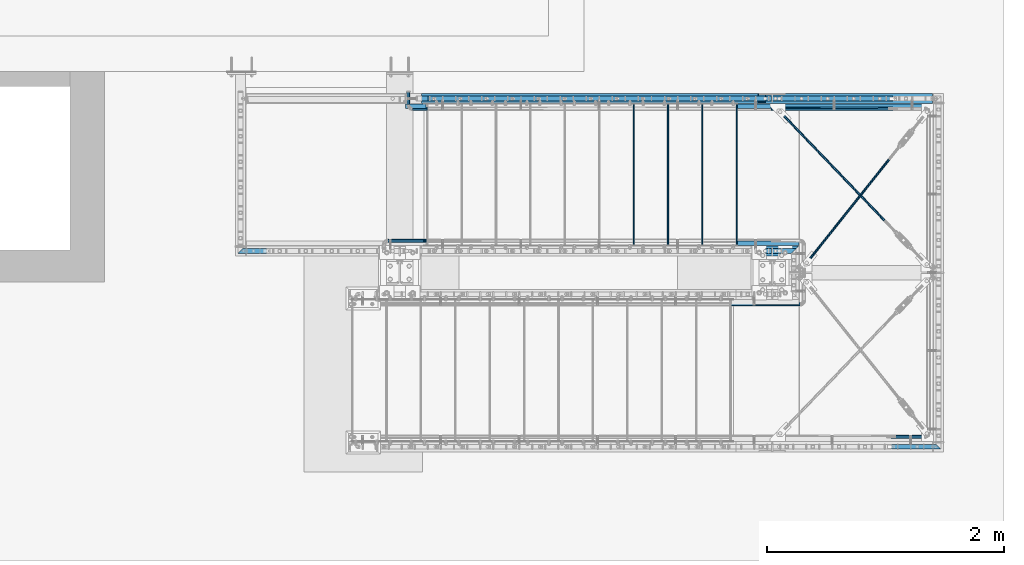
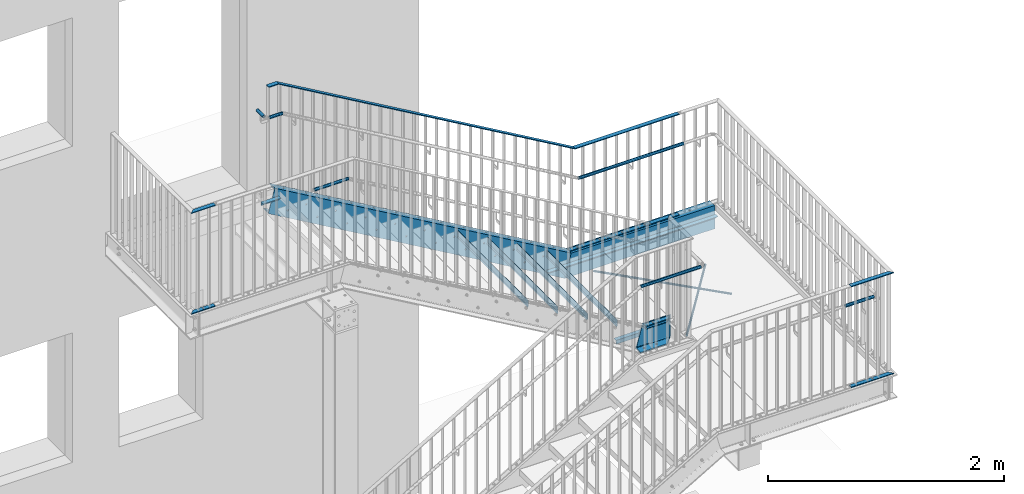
# One storey, part 17 of 145: 26 beams, 2 members, 50 openings.
"""IFC2X3 building model written with IfcOpenShell, lengths in millimetres."""

from ifc_helpers import new_model, entity, si_unit, converted_unit, frame, frame_2d, origin, origin_with_axes, origin_2d, origin_2d_with_axis, place, context, project, spatial, polyline, rectangle, circle, hollow_circle, l_section, u_section, outline, extrude, clip, halfspace, material, element, save


model = new_model("IFC2X3")

# Units and contexts
model_context = context("Model", 3, precision=1e-09, world=origin_with_axes())
ifc_project = project(units=[si_unit("LENGTHUNIT", "METRE", prefix="MILLI"), si_unit("AREAUNIT", "SQUARE_METRE"), si_unit("VOLUMEUNIT", "CUBIC_METRE"), converted_unit("PLANEANGLEUNIT", "DEGREE", entity("IfcPlaneAngleMeasure", 0.01745329), si_unit("PLANEANGLEUNIT", "RADIAN"), dimensions=[0, 0, 0, 0, 0, 0, 0])], contexts=[model_context])

# Site, building, storey
site_placement = place(None, origin_with_axes())
site = spatial("IfcSite", under=ifc_project, at=site_placement, Name="BZ1 Grund- und Mittelschule 85716 Unterschlei?heim", CompositionType="ELEMENT")
building_placement = place(site_placement, origin_with_axes())
building = spatial("IfcBuilding", under=site, at=building_placement, Name="Struktur 1", CompositionType="ELEMENT")
storey_placement = place(building_placement, origin_with_axes())
storey = spatial("IfcBuildingStorey", under=building, at=storey_placement, Name="Default Storey", CompositionType="ELEMENT", Elevation=0.0)

# Beam, openings
ifc_material_1 = material(Name="S235JR")
beam_1_placement = place(None, frame((19945.155406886, -247.702, 1493.6363644), z_axis=(1.0, 0.0, 0.0), x_axis=(0.0, 1.0, 0.0)))
beam_1 = element("IfcBeam", 1, at=beam_1_placement, inside=storey, material=ifc_material_1, Name="-", ObjectType="-", context=model_context, shape_type="Clipping", body=[
    clip(extrude(u_section(Depth=240.0, FlangeWidth=85.0, WebThickness=9.5, FlangeThickness=13.0, FilletRadius=13.0, EdgeRadius=6.5, FlangeSlope=4.574, at=frame_2d((20.2, 0.0))), origin(), (0.0, 0.0, 1.0), 1615.689320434), halfspace(frame((247.702, -6450.293706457, -1561.063264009), z_axis=(0.0, -0.260320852, 0.965522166), x_axis=(1.0, 0.0, 0.0)), True)),
])
opening_1_placement = place(beam_1_placement, frame((20.2, 106.5, 1392.986083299), z_axis=(0.0, 1.0, 0.0), x_axis=(0.0, 0.0, -1.0)))
element("IfcOpeningElement", 2, at=opening_1_placement, cuts=beam_1, ObjectType="Opening", context=model_context, shape_type="SweptSolid", body=[
    extrude(circle(Radius=7.001, at=origin_2d_with_axis()), origin(), (0.0, 0.0, 1.0), 14.0),
])
opening_2_placement = place(beam_1_placement, frame((20.2, 106.5, 512.986083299), z_axis=(0.0, 1.0, 0.0), x_axis=(0.0, 0.0, -1.0)))
element("IfcOpeningElement", 3, at=opening_2_placement, cuts=beam_1, ObjectType="Opening", context=model_context, shape_type="SweptSolid", body=[
    extrude(circle(Radius=7.001, at=origin_2d_with_axis()), origin(), (0.0, 0.0, 1.0), 14.0),
])
opening_3_placement = place(beam_1_placement, frame((20.2, 106.5, 952.986083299), z_axis=(0.0, 1.0, 0.0), x_axis=(0.0, 0.0, -1.0)))
element("IfcOpeningElement", 4, at=opening_3_placement, cuts=beam_1, ObjectType="Opening", context=model_context, shape_type="SweptSolid", body=[
    extrude(circle(Radius=7.001, at=origin_2d_with_axis()), origin(), (0.0, 0.0, 1.0), 14.0),
])
opening_4_placement = place(beam_1_placement, frame((20.2, 106.5, 292.986083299), z_axis=(0.0, 1.0, 0.0), x_axis=(0.0, 0.0, -1.0)))
element("IfcOpeningElement", 5, at=opening_4_placement, cuts=beam_1, ObjectType="Opening", context=model_context, shape_type="SweptSolid", body=[
    extrude(circle(Radius=7.001, at=origin_2d_with_axis()), origin(), (0.0, 0.0, 1.0), 14.0),
])
opening_5_placement = place(beam_1_placement, frame((20.2, 106.5, 1172.986083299), z_axis=(0.0, 1.0, 0.0), x_axis=(0.0, 0.0, -1.0)))
element("IfcOpeningElement", 6, at=opening_5_placement, cuts=beam_1, ObjectType="Opening", context=model_context, shape_type="SweptSolid", body=[
    extrude(circle(Radius=7.001, at=origin_2d_with_axis()), origin(), (0.0, 0.0, 1.0), 14.0),
])
opening_6_placement = place(beam_1_placement, frame((20.2, 106.5, 732.986083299), z_axis=(0.0, 1.0, 0.0), x_axis=(0.0, 0.0, -1.0)))
element("IfcOpeningElement", 7, at=opening_6_placement, cuts=beam_1, ObjectType="Opening", context=model_context, shape_type="SweptSolid", body=[
    extrude(circle(Radius=7.001, at=origin_2d_with_axis()), origin(), (0.0, 0.0, 1.0), 14.0),
])
opening_7_placement = place(beam_1_placement, frame((20.2, -120.5, 265.689320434), z_axis=(0.0, 1.0, 0.0), x_axis=(0.0, 0.0, 1.0)))
element("IfcOpeningElement", 8, at=opening_7_placement, cuts=beam_1, ObjectType="Opening", context=model_context, shape_type="SweptSolid", body=[
    extrude(circle(Radius=9.001, at=frame_2d((60.0, 0.0), x_axis=(1.0, 0.0))), origin(), (0.0, 0.0, 1.0), 14.0),
])
opening_8_placement = place(beam_1_placement, frame((20.2, -120.5, 265.689320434), z_axis=(0.0, 1.0, 0.0), x_axis=(0.0, 0.0, 1.0)))
element("IfcOpeningElement", 9, at=opening_8_placement, cuts=beam_1, ObjectType="Opening", context=model_context, shape_type="SweptSolid", body=[
    extrude(circle(Radius=9.001, at=frame_2d((-60.0, 0.0), x_axis=(1.0, 0.0))), origin(), (0.0, 0.0, 1.0), 14.0),
])

beam_2_placement = place(None, frame((19945.155406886, -1492.302, 1493.6363644), z_axis=(1.0, 0.0, 0.0), x_axis=(0.0, -1.0, 0.0)))
beam_2 = element("IfcBeam", 10, at=beam_2_placement, inside=storey, material=ifc_material_1, Name="-", ObjectType="-", context=model_context, shape_type="Clipping", body=[
    clip(clip(extrude(u_section(Depth=240.0, FlangeWidth=85.0, WebThickness=9.5, FlangeThickness=13.0, FilletRadius=13.0, EdgeRadius=6.5, FlangeSlope=4.574, at=frame_2d((20.2, 0.0))), origin(), (0.0, 0.0, 1.0), 733.79796419), halfspace(frame((-1492.302, 6450.293706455, -1561.063264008), z_axis=(0.0, 0.260320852, 0.965522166), x_axis=(-1.0, 0.0, 0.0)), True)), halfspace(frame((9460.620656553, 1493.6363644, -8992.232750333), z_axis=(-0.707106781, 0.0, -0.707106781), x_axis=(0.707106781, 0.0, -0.707106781)), True)),
])
opening_9_placement = place(beam_2_placement, frame((20.2, -106.5, 299.987083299), z_axis=(0.0, 1.0, 0.0), x_axis=(-1.0, 0.0, 0.0)))
element("IfcOpeningElement", 11, at=opening_9_placement, cuts=beam_2, ObjectType="Opening", context=model_context, shape_type="SweptSolid", body=[
    extrude(circle(Radius=7.001, at=frame_2d((0.0, -7.001), x_axis=(1.0, 0.0))), origin(), (0.0, 0.0, -1.0), 14.0),
])
opening_10_placement = place(beam_2_placement, frame((20.2, 120.5, 265.689320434), z_axis=(0.0, -1.0, 0.0), x_axis=(0.0, 0.0, 1.0)))
element("IfcOpeningElement", 12, at=opening_10_placement, cuts=beam_2, ObjectType="Opening", context=model_context, shape_type="SweptSolid", body=[
    extrude(circle(Radius=9.001, at=frame_2d((60.0, 0.0), x_axis=(1.0, 0.0))), origin(), (0.0, 0.0, 1.0), 14.0),
])
opening_11_placement = place(beam_2_placement, frame((20.2, 120.5, 265.689320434), z_axis=(0.0, -1.0, 0.0), x_axis=(0.0, 0.0, 1.0)))
element("IfcOpeningElement", 13, at=opening_11_placement, cuts=beam_2, ObjectType="Opening", context=model_context, shape_type="SweptSolid", body=[
    extrude(circle(Radius=9.001, at=frame_2d((-60.0, 0.0), x_axis=(1.0, 0.0))), origin(), (0.0, 0.0, 1.0), 14.0),
])

# Beams
beam_3_placement = place(None, frame((19905.1419848, -1455.802, 1512.4363644), z_axis=(1.0, 0.0, 0.0), x_axis=(0.0, 0.0, -1.0)))
element("IfcBeam", 14, at=beam_3_placement, inside=storey, material=ifc_material_1, Name="-", ObjectType="-", context=model_context, shape_type="SweptSolid", body=[
    extrude(l_section(Depth=40.0, Width=40.0, Thickness=4.0, FilletRadius=6.0, EdgeRadius=3.0, at=frame_2d((8.8, 8.8))), origin(), (0.0, 0.0, 1.0), 530.70274252),
])
beam_4_placement = place(None, frame((21570.84472732, -284.202, 1512.4363644), z_axis=(-1.0, 0.0, 0.0), x_axis=(0.0, 0.0, -1.0)))
element("IfcBeam", 15, at=beam_4_placement, inside=storey, material=ifc_material_1, Name="-", ObjectType="-", context=model_context, shape_type="SweptSolid", body=[
    extrude(l_section(Depth=40.0, Width=40.0, Thickness=4.0, FilletRadius=6.0, EdgeRadius=3.0, at=frame_2d((8.8, 8.8))), origin(), (0.0, 0.0, 1.0), 1665.70274252),
])
beam_5_placement = place(None, frame((20184.939115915, -1512.502, 2659.6363644), z_axis=(1.0, 0.0, 0.0), x_axis=(0.0, 0.0, 1.0)))
element("IfcBeam", 16, at=beam_5_placement, inside=storey, material=ifc_material_1, Name="-", ObjectType="-", context=model_context, shape_type="Clipping", body=[
    clip(clip(extrude(rectangle(XDim=8.0, YDim=40.0, at=origin_2d()), origin(), (0.0, 0.0, 1.0), 237.250021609), halfspace(frame((-7558.105404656, -1512.502, -2016.665624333), z_axis=(-0.260320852, 0.0, 0.965522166), x_axis=(0.0, -1.0, 0.0)), True)), halfspace(frame((-2659.6363644, 9440.420656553, -9232.016459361), z_axis=(0.0, -0.707106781, -0.707106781), x_axis=(0.0, 0.707106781, -0.707106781)), True)),
])

# Beam, opening
beam_6_placement = place(None, frame((20135.505752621, -1512.502, 1617.636364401), z_axis=(1.0, 0.0, 0.0), x_axis=(0.0, 0.0, 1.0)))
beam_6 = element("IfcBeam", 17, at=beam_6_placement, inside=storey, material=ifc_material_1, Name="-", ObjectType="-", context=model_context, shape_type="Clipping", body=[
    clip(clip(extrude(rectangle(XDim=8.0, YDim=40.0, at=origin_2d()), origin(), (0.0, 0.0, 1.0), 286.683384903), halfspace(frame((-6574.293706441, -1512.502, -1751.413609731), z_axis=(-0.260320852, 0.0, 0.965522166), x_axis=(0.0, -1.0, 0.0)), True)), halfspace(frame((-1617.636364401, 9440.420656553, -9182.583096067), z_axis=(0.0, -0.707106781, -0.707106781), x_axis=(0.0, 0.707106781, -0.707106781)), True)),
])
opening_12_placement = place(beam_6_placement, frame((-4.5, 0.0, 110.136737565), z_axis=(-1.0, 0.0, 0.0), x_axis=(0.0, -1.0, 0.0)))
element("IfcOpeningElement", 18, at=opening_12_placement, cuts=beam_6, ObjectType="Opening", context=model_context, shape_type="SweptSolid", body=[
    extrude(circle(Radius=7.501, at=frame_2d((0.0, -7.501), x_axis=(1.0, 0.0))), origin(), (0.0, 0.0, -1.0), 9.0),
])

# Beams
ifc_material_2 = material(Name="1.4301")
beam_7_placement = place(None, frame((17325.068441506, -312.502, 4085.0), z_axis=(-1.0, 0.0, 0.0), x_axis=(0.0, 0.0, 1.0)))
element("IfcBeam", 19, at=beam_7_placement, inside=storey, material=ifc_material_2, Name="-", ObjectType="-", context=model_context, shape_type="Clipping", body=[
    clip(extrude(hollow_circle(Radius=15.0, WallThickness=2.0, at=origin_2d()), origin(), (0.0, 0.0, 1.0), 147.723714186), halfspace(frame((-8157.228438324, 312.502, 2221.296348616), z_axis=(0.260320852, 0.0, 0.965522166), x_axis=(0.0, -1.0, 0.0)), True)),
])
beam_8_placement = place(None, frame((19836.61894234, -1962.502, 2398.636364), z_axis=(1.0, 0.0, 0.0), x_axis=(0.0, 0.0, -1.0)))
element("IfcBeam", 20, at=beam_8_placement, inside=storey, material=ifc_material_2, Name="-", ObjectType="-", context=model_context, shape_type="Clipping", body=[
    clip(extrude(hollow_circle(Radius=15.0, WallThickness=2.0, at=origin_2d()), origin(), (0.0, 0.0, 1.0), 608.22578498), halfspace(frame((-2755.280359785, 1962.502, -720.897719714), z_axis=(-0.260320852, 0.0, 0.965522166), x_axis=(0.0, 1.0, 0.0)), True)),
])
beam_9_placement = place(None, frame((17143.84472732, -168.001, 4085.0), z_axis=(0.0, 1.0, 0.0), x_axis=(0.0, 0.0, 1.0)))
element("IfcBeam", 21, at=beam_9_placement, inside=storey, material=ifc_material_2, Name="-", ObjectType="-", context=model_context, shape_type="SweptSolid", body=[
    extrude(hollow_circle(Radius=15.0, WallThickness=2.0, at=origin_2d()), origin(), (0.0, 0.0, -1.0), 111.001),
])
beam_10_placement = place(None, frame((21156.772425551, -1254.264117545, 1438.6363644), z_axis=(-0.692926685, 0.721008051, 0.0), x_axis=(-0.721008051, -0.692926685, 0.0)))
element("IfcBeam", 22, at=beam_10_placement, inside=storey, material=ifc_material_1, Name="-", ObjectType="-", context=model_context, shape_type="SweptSolid", body=[
    extrude(circle(Radius=10.0, at=origin_2d()), origin(), (0.0, 0.0, 1.0), 1218.597548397),
])
for number, where, z_axis, x_axis in (
    (23, (19047.1419848, -273.002, 2238.181818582), (0.0, 1.0, 0.0), (-1.0, 0.0, 0.0)),
    (24, (19917.1419848, -273.002, 1732.272727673), (0.0, 1.0, 0.0), (-1.0, 0.0, 0.0)),
    (25, (19627.1419848, -273.002, 1900.909091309), (0.0, 1.0, 0.0), (-1.0, 0.0, 0.0)),
    (26, (19337.1419848, -273.002, 2069.545454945), (0.0, 1.0, 0.0), (-1.0, 0.0, 0.0)),
):
    element("IfcBeam", number, at=place(None, frame(where, z_axis=z_axis, x_axis=x_axis)), inside=storey, material=ifc_material_1, Name="-", ObjectType="-", context=model_context, shape_type="SweptSolid", body=[
        extrude(outline(polyline([(0.0, 0.0), (0.0, -57.009618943), (7.5, -70.0), (9.232050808, -69.0), (2.0, -56.473720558), (2.0, 0.0), (0.0, 0.0)])), origin(), (0.0, 0.0, -1.0), 1194.0),
    ])
beam_11_placement = place(None, frame((17118.84572732, -284.202, 3198.8000004), z_axis=(-1.0, 0.0, 0.0), x_axis=(0.0, 0.0, -1.0)))
element("IfcBeam", 27, at=beam_11_placement, inside=storey, material=ifc_material_1, Name="-", ObjectType="-", context=model_context, shape_type="SweptSolid", body=[
    extrude(l_section(Depth=40.0, Width=40.0, Thickness=4.0, FilletRadius=6.0, EdgeRadius=3.0, at=frame_2d((8.8, 8.8))), origin(), (0.0, 0.0, -1.0), 173.29625748),
])

# Member
member_1_placement = place(None, frame((20224.324846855, -227.502, 2649.017315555), z_axis=(0.864466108, 0.0, -0.502691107), x_axis=(-0.502691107, 0.0, -0.864466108)))
element("IfcMember", 28, at=member_1_placement, inside=storey, material=ifc_material_1, Name="-", ObjectType="-", context=model_context, shape_type="Clipping", body=[
    clip(clip(extrude(rectangle(XDim=8.0, YDim=40.0, at=origin_2d()), origin(), (0.0, 0.0, -1.0), 3396.920517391), halfspace(frame((8401.286702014, 227.502, -1110.668301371), z_axis=(-0.260320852, 0.0, 0.965522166), x_axis=(0.0, 1.0, 0.0)), True)), halfspace(frame((7558.105404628, 227.502, 2016.665624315), z_axis=(0.260320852, 0.0, -0.965522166), x_axis=(0.0, -1.0, 0.0)), True)),
])

# Beam
beam_12_placement = place(None, frame((17327.187919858, -227.502, 4346.0000004), z_axis=(1.0, 0.0, 0.0), x_axis=(0.0, 0.0, -1.0)))
element("IfcBeam", 29, at=beam_12_placement, inside=storey, material=ifc_material_1, Name="-", ObjectType="-", context=model_context, shape_type="Clipping", body=[
    clip(extrude(rectangle(XDim=8.0, YDim=40.0, at=origin_2d()), origin(), (0.0, 0.0, -1.0), 118.046429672), halfspace(frame((8401.286702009, 227.502, -2286.252216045), z_axis=(-0.260320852, 0.0, -0.965522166), x_axis=(0.0, -1.0, 0.0)), True)),
])

# Member, openings
member_2_placement = place(None, frame((20277.109208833, -247.702, 1404.136092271), z_axis=(0.864466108, 0.0, -0.502691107), x_axis=(0.0, 1.0, 0.0)))
member_2 = element("IfcMember", 30, at=member_2_placement, inside=storey, material=ifc_material_1, Name="-", ObjectType="-", context=model_context, shape_type="Clipping", body=[
    clip(clip(extrude(u_section(Depth=240.0, FlangeWidth=85.0, WebThickness=9.5, FlangeThickness=13.0, FilletRadius=13.0, EdgeRadius=6.5, FlangeSlope=4.574, at=frame_2d((20.2, 0.0))), origin(), (0.0, 0.0, -1.0), 3710.756279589), halfspace(frame((247.702, -7293.475003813, -1566.27066167), z_axis=(0.0, 0.260320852, 0.965522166), x_axis=(1.0, 0.0, 0.0)), True)), halfspace(frame((247.702, -6450.293706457, 1561.063264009), z_axis=(0.0, -0.260320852, -0.965522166), x_axis=(-1.0, 0.0, 0.0)), True)),
])
opening_13_placement = place(member_2_placement, frame((20.2, 106.5, -1146.475690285), z_axis=(0.0, 1.0, 0.0), x_axis=(0.0, 0.0, -1.0)))
element("IfcOpeningElement", 31, at=opening_13_placement, cuts=member_2, ObjectType="Opening", context=model_context, shape_type="SweptSolid", body=[
    extrude(circle(Radius=7.001, at=origin_2d_with_axis()), origin(), (0.0, 0.0, 1.0), 14.0),
])
opening_14_placement = place(member_2_placement, frame((-12.3, 37.570853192, -1485.140650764), z_axis=(-1.0, 0.0, 0.0), x_axis=(0.0, 0.864466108, -0.502691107)))
element("IfcOpeningElement", 32, at=opening_14_placement, cuts=member_2, ObjectType="Opening", context=model_context, shape_type="SweptSolid", body=[
    extrude(circle(Radius=7.001, at=origin_2d_with_axis()), origin(), (0.0, 0.0, 1.0), 10.5),
])
opening_15_placement = place(member_2_placement, frame((20.2, 106.5, -1400.968608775), z_axis=(0.0, 1.0, 0.0), x_axis=(0.0, 0.0, -1.0)))
element("IfcOpeningElement", 33, at=opening_15_placement, cuts=member_2, ObjectType="Opening", context=model_context, shape_type="SweptSolid", body=[
    extrude(circle(Radius=7.001, at=origin_2d_with_axis()), origin(), (0.0, 0.0, 1.0), 14.0),
])
opening_16_placement = place(member_2_placement, frame((-12.3, 37.570853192, -3162.476508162), z_axis=(-1.0, 0.0, 0.0), x_axis=(0.0, 0.864466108, -0.502691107)))
element("IfcOpeningElement", 34, at=opening_16_placement, cuts=member_2, ObjectType="Opening", context=model_context, shape_type="SweptSolid", body=[
    extrude(circle(Radius=7.001, at=origin_2d_with_axis()), origin(), (0.0, 0.0, 1.0), 10.5),
])
opening_17_placement = place(member_2_placement, frame((20.2, 106.5, -2164.446782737), z_axis=(0.0, 1.0, 0.0), x_axis=(0.0, 0.0, -1.0)))
element("IfcOpeningElement", 35, at=opening_17_placement, cuts=member_2, ObjectType="Opening", context=model_context, shape_type="SweptSolid", body=[
    extrude(circle(Radius=7.001, at=origin_2d_with_axis()), origin(), (0.0, 0.0, 1.0), 14.0),
])
opening_18_placement = place(member_2_placement, frame((20.2, 106.5, -2927.923212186), z_axis=(0.0, 1.0, 0.0), x_axis=(0.0, 0.0, -1.0)))
element("IfcOpeningElement", 36, at=opening_18_placement, cuts=member_2, ObjectType="Opening", context=model_context, shape_type="SweptSolid", body=[
    extrude(circle(Radius=7.001, at=origin_2d_with_axis()), origin(), (0.0, 0.0, 1.0), 14.0),
])
opening_19_placement = place(member_2_placement, frame((20.2, 106.5, -2673.430875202), z_axis=(0.0, 1.0, 0.0), x_axis=(0.0, 0.0, -1.0)))
element("IfcOpeningElement", 37, at=opening_19_placement, cuts=member_2, ObjectType="Opening", context=model_context, shape_type="SweptSolid", body=[
    extrude(circle(Radius=7.001, at=origin_2d_with_axis()), origin(), (0.0, 0.0, 1.0), 14.0),
])
opening_20_placement = place(member_2_placement, frame((-12.3, 37.570853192, -1149.673479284), z_axis=(-1.0, 0.0, 0.0), x_axis=(0.0, 0.864466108, -0.502691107)))
element("IfcOpeningElement", 38, at=opening_20_placement, cuts=member_2, ObjectType="Opening", context=model_context, shape_type="SweptSolid", body=[
    extrude(circle(Radius=7.001, at=origin_2d_with_axis()), origin(), (0.0, 0.0, 1.0), 10.5),
])
opening_21_placement = place(member_2_placement, frame((20.2, 106.5, -891.983353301), z_axis=(0.0, 1.0, 0.0), x_axis=(0.0, 0.0, -1.0)))
element("IfcOpeningElement", 39, at=opening_21_placement, cuts=member_2, ObjectType="Opening", context=model_context, shape_type="SweptSolid", body=[
    extrude(circle(Radius=7.001, at=origin_2d_with_axis()), origin(), (0.0, 0.0, 1.0), 14.0),
])
opening_22_placement = place(member_2_placement, frame((-12.3, -52.913545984, -2647.146064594), z_axis=(-1.0, 0.0, 0.0), x_axis=(0.0, 0.864466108, -0.502691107)))
element("IfcOpeningElement", 40, at=opening_22_placement, cuts=member_2, ObjectType="Opening", context=model_context, shape_type="SweptSolid", body=[
    extrude(circle(Radius=7.001, at=origin_2d_with_axis()), origin(), (0.0, 0.0, 1.0), 10.5),
])
opening_23_placement = place(member_2_placement, frame((-12.3, -52.913545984, -2311.678893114), z_axis=(-1.0, 0.0, 0.0), x_axis=(0.0, 0.864466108, -0.502691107)))
element("IfcOpeningElement", 41, at=opening_23_placement, cuts=member_2, ObjectType="Opening", context=model_context, shape_type="SweptSolid", body=[
    extrude(circle(Radius=7.001, at=origin_2d_with_axis()), origin(), (0.0, 0.0, 1.0), 10.5),
])
opening_24_placement = place(member_2_placement, frame((-12.3, 37.570853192, -2827.009336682), z_axis=(-1.0, 0.0, 0.0), x_axis=(0.0, 0.864466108, -0.502691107)))
element("IfcOpeningElement", 42, at=opening_24_placement, cuts=member_2, ObjectType="Opening", context=model_context, shape_type="SweptSolid", body=[
    extrude(circle(Radius=7.001, at=origin_2d_with_axis()), origin(), (0.0, 0.0, 1.0), 10.5),
])
opening_25_placement = place(member_2_placement, frame((-12.3, 37.570853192, -2156.074993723), z_axis=(-1.0, 0.0, 0.0), x_axis=(0.0, 0.864466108, -0.502691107)))
element("IfcOpeningElement", 43, at=opening_25_placement, cuts=member_2, ObjectType="Opening", context=model_context, shape_type="SweptSolid", body=[
    extrude(circle(Radius=7.001, at=origin_2d_with_axis()), origin(), (0.0, 0.0, 1.0), 10.5),
])
opening_26_placement = place(member_2_placement, frame((-12.3, 37.570853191, -814.206307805), z_axis=(-1.0, 0.0, 0.0), x_axis=(0.0, 0.864466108, -0.502691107)))
element("IfcOpeningElement", 44, at=opening_26_placement, cuts=member_2, ObjectType="Opening", context=model_context, shape_type="SweptSolid", body=[
    extrude(circle(Radius=7.001, at=origin_2d_with_axis()), origin(), (0.0, 0.0, 1.0), 10.5),
])
opening_27_placement = place(member_2_placement, frame((-12.3, -52.913545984, -969.810207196), z_axis=(-1.0, 0.0, 0.0), x_axis=(0.0, 0.864466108, -0.502691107)))
element("IfcOpeningElement", 45, at=opening_27_placement, cuts=member_2, ObjectType="Opening", context=model_context, shape_type="SweptSolid", body=[
    extrude(circle(Radius=7.001, at=origin_2d_with_axis()), origin(), (0.0, 0.0, 1.0), 10.5),
])
opening_28_placement = place(member_2_placement, frame((-12.3, -52.913545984, -3318.080407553), z_axis=(-1.0, 0.0, 0.0), x_axis=(0.0, 0.864466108, -0.502691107)))
element("IfcOpeningElement", 46, at=opening_28_placement, cuts=member_2, ObjectType="Opening", context=model_context, shape_type="SweptSolid", body=[
    extrude(circle(Radius=7.001, at=origin_2d_with_axis()), origin(), (0.0, 0.0, 1.0), 10.5),
])
opening_29_placement = place(member_2_placement, frame((20.2, 106.5, -1909.953864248), z_axis=(0.0, 1.0, 0.0), x_axis=(0.0, 0.0, -1.0)))
element("IfcOpeningElement", 47, at=opening_29_placement, cuts=member_2, ObjectType="Opening", context=model_context, shape_type="SweptSolid", body=[
    extrude(circle(Radius=7.001, at=origin_2d_with_axis()), origin(), (0.0, 0.0, 1.0), 14.0),
])
opening_30_placement = place(member_2_placement, frame((-12.3, -52.913545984, -1640.744550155), z_axis=(-1.0, 0.0, 0.0), x_axis=(0.0, 0.864466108, -0.502691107)))
element("IfcOpeningElement", 48, at=opening_30_placement, cuts=member_2, ObjectType="Opening", context=model_context, shape_type="SweptSolid", body=[
    extrude(circle(Radius=7.001, at=origin_2d_with_axis()), origin(), (0.0, 0.0, 1.0), 10.5),
])
opening_31_placement = place(member_2_placement, frame((20.2, 106.5, -2418.939119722), z_axis=(0.0, 1.0, 0.0), x_axis=(0.0, 0.0, -1.0)))
element("IfcOpeningElement", 49, at=opening_31_placement, cuts=member_2, ObjectType="Opening", context=model_context, shape_type="SweptSolid", body=[
    extrude(circle(Radius=7.001, at=origin_2d_with_axis()), origin(), (0.0, 0.0, 1.0), 14.0),
])
opening_32_placement = place(member_2_placement, frame((20.2, 106.5, -3182.416130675), z_axis=(0.0, 1.0, 0.0), x_axis=(0.0, 0.0, -1.0)))
element("IfcOpeningElement", 50, at=opening_32_placement, cuts=member_2, ObjectType="Opening", context=model_context, shape_type="SweptSolid", body=[
    extrude(circle(Radius=7.001, at=origin_2d_with_axis()), origin(), (0.0, 0.0, 1.0), 14.0),
])
opening_33_placement = place(member_2_placement, frame((-12.3, 37.570853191, -478.739136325), z_axis=(-1.0, 0.0, 0.0), x_axis=(0.0, 0.864466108, -0.502691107)))
element("IfcOpeningElement", 51, at=opening_33_placement, cuts=member_2, ObjectType="Opening", context=model_context, shape_type="SweptSolid", body=[
    extrude(circle(Radius=7.001, at=origin_2d_with_axis()), origin(), (0.0, 0.0, 1.0), 10.5),
])
opening_34_placement = place(member_2_placement, frame((-12.3, -52.913545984, -634.343035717), z_axis=(-1.0, 0.0, 0.0), x_axis=(0.0, 0.864466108, -0.502691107)))
element("IfcOpeningElement", 52, at=opening_34_placement, cuts=member_2, ObjectType="Opening", context=model_context, shape_type="SweptSolid", body=[
    extrude(circle(Radius=7.001, at=origin_2d_with_axis()), origin(), (0.0, 0.0, 1.0), 10.5),
])
opening_35_placement = place(member_2_placement, frame((20.2, 106.5, -382.998097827), z_axis=(0.0, 1.0, 0.0), x_axis=(0.0, 0.0, -1.0)))
element("IfcOpeningElement", 53, at=opening_35_placement, cuts=member_2, ObjectType="Opening", context=model_context, shape_type="SweptSolid", body=[
    extrude(circle(Radius=7.001, at=origin_2d_with_axis()), origin(), (0.0, 0.0, 1.0), 14.0),
])
opening_36_placement = place(member_2_placement, frame((-12.3, -52.913545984, -2982.613236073), z_axis=(-1.0, 0.0, 0.0), x_axis=(0.0, 0.864466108, -0.502691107)))
element("IfcOpeningElement", 54, at=opening_36_placement, cuts=member_2, ObjectType="Opening", context=model_context, shape_type="SweptSolid", body=[
    extrude(circle(Radius=7.001, at=origin_2d_with_axis()), origin(), (0.0, 0.0, 1.0), 10.5),
])
opening_37_placement = place(member_2_placement, frame((20.2, 106.5, -637.491016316), z_axis=(0.0, 1.0, 0.0), x_axis=(0.0, 0.0, -1.0)))
element("IfcOpeningElement", 55, at=opening_37_placement, cuts=member_2, ObjectType="Opening", context=model_context, shape_type="SweptSolid", body=[
    extrude(circle(Radius=7.001, at=origin_2d_with_axis()), origin(), (0.0, 0.0, 1.0), 14.0),
])
opening_38_placement = place(member_2_placement, frame((20.2, 106.5, -1655.460945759), z_axis=(0.0, 1.0, 0.0), x_axis=(0.0, 0.0, -1.0)))
element("IfcOpeningElement", 56, at=opening_38_placement, cuts=member_2, ObjectType="Opening", context=model_context, shape_type="SweptSolid", body=[
    extrude(circle(Radius=7.001, at=origin_2d_with_axis()), origin(), (0.0, 0.0, 1.0), 14.0),
])
opening_39_placement = place(member_2_placement, frame((-12.3, -52.913545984, -1976.211721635), z_axis=(-1.0, 0.0, 0.0), x_axis=(0.0, 0.864466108, -0.502691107)))
element("IfcOpeningElement", 57, at=opening_39_placement, cuts=member_2, ObjectType="Opening", context=model_context, shape_type="SweptSolid", body=[
    extrude(circle(Radius=7.001, at=origin_2d_with_axis()), origin(), (0.0, 0.0, 1.0), 10.5),
])
opening_40_placement = place(member_2_placement, frame((-12.3, -52.913545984, -1305.277378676), z_axis=(-1.0, 0.0, 0.0), x_axis=(0.0, 0.864466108, -0.502691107)))
element("IfcOpeningElement", 58, at=opening_40_placement, cuts=member_2, ObjectType="Opening", context=model_context, shape_type="SweptSolid", body=[
    extrude(circle(Radius=7.001, at=origin_2d_with_axis()), origin(), (0.0, 0.0, 1.0), 10.5),
])
opening_41_placement = place(member_2_placement, frame((-12.3, 37.570853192, -2491.542165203), z_axis=(-1.0, 0.0, 0.0), x_axis=(0.0, 0.864466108, -0.502691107)))
element("IfcOpeningElement", 59, at=opening_41_placement, cuts=member_2, ObjectType="Opening", context=model_context, shape_type="SweptSolid", body=[
    extrude(circle(Radius=7.001, at=origin_2d_with_axis()), origin(), (0.0, 0.0, 1.0), 10.5),
])
opening_42_placement = place(member_2_placement, frame((-12.3, 37.570853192, -1820.607822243), z_axis=(-1.0, 0.0, 0.0), x_axis=(0.0, 0.864466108, -0.502691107)))
element("IfcOpeningElement", 60, at=opening_42_placement, cuts=member_2, ObjectType="Opening", context=model_context, shape_type="SweptSolid", body=[
    extrude(circle(Radius=7.001, at=origin_2d_with_axis()), origin(), (0.0, 0.0, 1.0), 10.5),
])
opening_43_placement = place(member_2_placement, frame((20.2, 106.5, -3436.909049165), z_axis=(0.0, 1.0, 0.0), x_axis=(0.0, 0.0, -1.0)))
element("IfcOpeningElement", 61, at=opening_43_placement, cuts=member_2, ObjectType="Opening", context=model_context, shape_type="SweptSolid", body=[
    extrude(circle(Radius=7.001, at=origin_2d_with_axis()), origin(), (0.0, 0.0, 1.0), 14.0),
])

# Beams
beam_13_placement = place(None, frame((17325.068441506, -1427.502, 4085.0), z_axis=(1.0, 0.0, 0.0), x_axis=(0.0, 0.0, 1.0)))
element("IfcBeam", 62, at=beam_13_placement, inside=storey, material=ifc_material_2, Name="-", ObjectType="-", context=model_context, shape_type="Clipping", body=[
    clip(extrude(hollow_circle(Radius=15.0, WallThickness=2.0, at=origin_2d()), origin(), (0.0, 0.0, -1.0), 353.42695132), halfspace(frame((-8157.228438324, -1427.502, -2221.296348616), z_axis=(0.260320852, 0.0, -0.965522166), x_axis=(0.0, 1.0, 0.0)), True)),
])
beam_14_placement = place(None, frame((21214.545893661, -3162.502, 2659.6363644), z_axis=(-1.0, 0.0, 0.0), x_axis=(0.0, 0.0, -1.0)))
element("IfcBeam", 63, at=beam_14_placement, inside=storey, material=ifc_material_1, Name="-", ObjectType="-", context=model_context, shape_type="Clipping", body=[
    clip(extrude(rectangle(XDim=8.0, YDim=40.0, at=origin_2d()), origin(), (0.0, 0.0, -1.0), 427.643243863), halfspace(frame((2659.6363644, -12387.922656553, 11989.125237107), z_axis=(0.0, 0.707106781, 0.707106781), x_axis=(0.0, 0.707106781, -0.707106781)), True)),
])

# Beam, opening
beam_15_placement = place(None, frame((21214.545893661, -3162.502, 1617.636364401), z_axis=(-1.0, 0.0, 0.0), x_axis=(0.0, 0.0, -1.0)))
beam_15 = element("IfcBeam", 64, at=beam_15_placement, inside=storey, material=ifc_material_1, Name="-", ObjectType="-", context=model_context, shape_type="Clipping", body=[
    clip(extrude(rectangle(XDim=8.0, YDim=40.0, at=origin_2d()), origin(), (0.0, 0.0, -1.0), 427.643243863), halfspace(frame((1617.636364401, -12387.922656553, 11989.125237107), z_axis=(0.0, 0.707106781, 0.707106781), x_axis=(0.0, 0.707106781, -0.707106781)), True)),
])
opening_44_placement = place(beam_15_placement, frame((4.5, 0.0, -219.0), z_axis=(-1.0, 0.0, 0.0), x_axis=(0.0, 0.0, -1.0)))
element("IfcOpeningElement", 65, at=opening_44_placement, cuts=beam_15, ObjectType="Opening", context=model_context, shape_type="SweptSolid", body=[
    extrude(circle(Radius=7.501, at=origin_2d_with_axis()), origin(), (0.0, 0.0, 1.0), 9.0),
])

# Beam
beam_16_placement = place(None, frame((21213.545893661, -3077.502, 2398.636364), z_axis=(-1.0, 0.0, 0.0), x_axis=(0.0, 0.0, -1.0)))
element("IfcBeam", 66, at=beam_16_placement, inside=storey, material=ifc_material_2, Name="-", ObjectType="-", context=model_context, shape_type="SweptSolid", body=[
    extrude(hollow_circle(Radius=15.0, WallThickness=2.0, at=origin_2d()), origin(), (0.0, 0.0, -1.0), 281.29883366),
])

# Beam, openings
beam_17_placement = place(None, frame((20135.505752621, -227.502, 1617.636364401), z_axis=(1.0, 0.0, 0.0), x_axis=(0.0, 0.0, -1.0)))
beam_17 = element("IfcBeam", 67, at=beam_17_placement, inside=storey, material=ifc_material_1, Name="-", ObjectType="-", context=model_context, shape_type="Clipping", body=[
    clip(extrude(rectangle(XDim=8.0, YDim=40.0, at=origin_2d()), origin(), (0.0, 0.0, 1.0), 1091.635737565), halfspace(frame((6574.293706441, 227.502, -1751.413609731), z_axis=(0.260320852, 0.0, 0.965522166), x_axis=(0.0, 1.0, 0.0)), True)),
])
opening_45_placement = place(beam_17_placement, frame((4.5, 0.0, 982.635737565), z_axis=(-1.0, 0.0, 0.0), x_axis=(0.0, 0.0, -1.0)))
element("IfcOpeningElement", 68, at=opening_45_placement, cuts=beam_17, ObjectType="Opening", context=model_context, shape_type="SweptSolid", body=[
    extrude(circle(Radius=7.501, at=origin_2d_with_axis()), origin(), (0.0, 0.0, 1.0), 9.0),
])
opening_46_placement = place(beam_17_placement, frame((4.5, 0.0, 322.635737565), z_axis=(-1.0, 0.0, 0.0), x_axis=(0.0, 0.0, -1.0)))
element("IfcOpeningElement", 69, at=opening_46_placement, cuts=beam_17, ObjectType="Opening", context=model_context, shape_type="SweptSolid", body=[
    extrude(circle(Radius=7.501, at=origin_2d_with_axis()), origin(), (0.0, 0.0, 1.0), 9.0),
])
opening_47_placement = place(beam_17_placement, frame((4.5, 0.0, 102.635737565), z_axis=(-1.0, 0.0, 0.0), x_axis=(0.0, 0.0, -1.0)))
element("IfcOpeningElement", 70, at=opening_47_placement, cuts=beam_17, ObjectType="Opening", context=model_context, shape_type="SweptSolid", body=[
    extrude(circle(Radius=7.501, at=origin_2d_with_axis()), origin(), (0.0, 0.0, 1.0), 9.0),
])
opening_48_placement = place(beam_17_placement, frame((4.5, 0.0, 762.635737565), z_axis=(-1.0, 0.0, 0.0), x_axis=(0.0, 0.0, -1.0)))
element("IfcOpeningElement", 71, at=opening_48_placement, cuts=beam_17, ObjectType="Opening", context=model_context, shape_type="SweptSolid", body=[
    extrude(circle(Radius=7.501, at=origin_2d_with_axis()), origin(), (0.0, 0.0, 1.0), 9.0),
])
opening_49_placement = place(beam_17_placement, frame((4.5, 0.0, 542.635737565), z_axis=(-1.0, 0.0, 0.0), x_axis=(0.0, 0.0, -1.0)))
element("IfcOpeningElement", 72, at=opening_49_placement, cuts=beam_17, ObjectType="Opening", context=model_context, shape_type="SweptSolid", body=[
    extrude(circle(Radius=7.501, at=origin_2d_with_axis()), origin(), (0.0, 0.0, 1.0), 9.0),
])

# Beams
beam_18_placement = place(None, frame((20184.939115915, -227.502, 2659.6363644), z_axis=(1.0, 0.0, 0.0), x_axis=(0.0, 0.0, -1.0)))
element("IfcBeam", 73, at=beam_18_placement, inside=storey, material=ifc_material_1, Name="-", ObjectType="-", context=model_context, shape_type="Clipping", body=[
    clip(extrude(rectangle(XDim=8.0, YDim=40.0, at=origin_2d()), origin(), (0.0, 0.0, 1.0), 1042.202374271), halfspace(frame((7558.105404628, 227.502, -2016.665624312), z_axis=(0.260320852, 0.0, 0.965522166), x_axis=(0.0, 1.0, 0.0)), True)),
])
beam_19_placement = place(None, frame((21228.141490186, -312.502, 2398.636364), z_axis=(-1.0, 0.0, 0.0), x_axis=(0.0, 0.0, 1.0)))
element("IfcBeam", 74, at=beam_19_placement, inside=storey, material=ifc_material_2, Name="-", ObjectType="-", context=model_context, shape_type="Clipping", body=[
    clip(extrude(hollow_circle(Radius=15.0, WallThickness=2.0, at=origin_2d()), origin(), (0.0, 0.0, 1.0), 1047.01446085), halfspace(frame((-7314.047140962, 312.502, 2997.031609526), z_axis=(-0.260320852, 0.0, -0.965522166), x_axis=(0.0, 1.0, 0.0)), True)),
])

# Beam, opening
beam_20_placement = place(None, frame((15947.141490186, -1512.502, 3304.000000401), z_axis=(1.0, 0.0, 0.0), x_axis=(0.0, 0.0, 1.0)))
beam_20 = element("IfcBeam", 75, at=beam_20_placement, inside=storey, material=ifc_material_1, Name="-", ObjectType="-", context=model_context, shape_type="Clipping", body=[
    clip(extrude(rectangle(XDim=8.0, YDim=40.0, at=origin_2d()), origin(), (0.0, 0.0, -1.0), 247.642173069), halfspace(frame((-3304.000000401, 7107.921570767, -7326.717919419), z_axis=(0.0, 0.707106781, 0.707106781), x_axis=(0.0, -0.707106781, 0.707106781)), True)),
])
opening_50_placement = place(beam_20_placement, frame((-4.5, 0.0, -101.499), z_axis=(-1.0, 0.0, 0.0), x_axis=(0.0, -1.0, 0.0)))
element("IfcOpeningElement", 76, at=opening_50_placement, cuts=beam_20, ObjectType="Opening", context=model_context, shape_type="SweptSolid", body=[
    extrude(circle(Radius=7.501, at=frame_2d((0.0, -7.501), x_axis=(1.0, 0.0))), origin(), (0.0, 0.0, -1.0), 9.0),
])

# Beams
beam_21_placement = place(None, frame((15947.141490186, -1512.502, 4346.0000004), z_axis=(1.0, 0.0, 0.0), x_axis=(0.0, 0.0, 1.0)))
element("IfcBeam", 77, at=beam_21_placement, inside=storey, material=ifc_material_1, Name="-", ObjectType="-", context=model_context, shape_type="Clipping", body=[
    clip(extrude(rectangle(XDim=8.0, YDim=40.0, at=origin_2d()), origin(), (0.0, 0.0, -1.0), 247.642173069), halfspace(frame((-4346.0000004, 7107.921570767, -7326.717919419), z_axis=(0.0, 0.707106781, 0.707106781), x_axis=(0.0, -0.707106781, 0.707106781)), True)),
])
beam_22_placement = place(None, frame((21195.182131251, -741.648871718, 1418.6363644), z_axis=(0.623020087, 0.782205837, 0.0), x_axis=(-0.782205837, 0.623020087, 0.0)))
element("IfcBeam", 78, at=beam_22_placement, inside=storey, material=ifc_material_1, Name="-", ObjectType="-", context=model_context, shape_type="SweptSolid", body=[
    extrude(circle(Radius=10.0, at=origin_2d()), origin(), (0.0, 0.0, -1.0), 1063.779710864),
])

save(model, "model.ifc")
